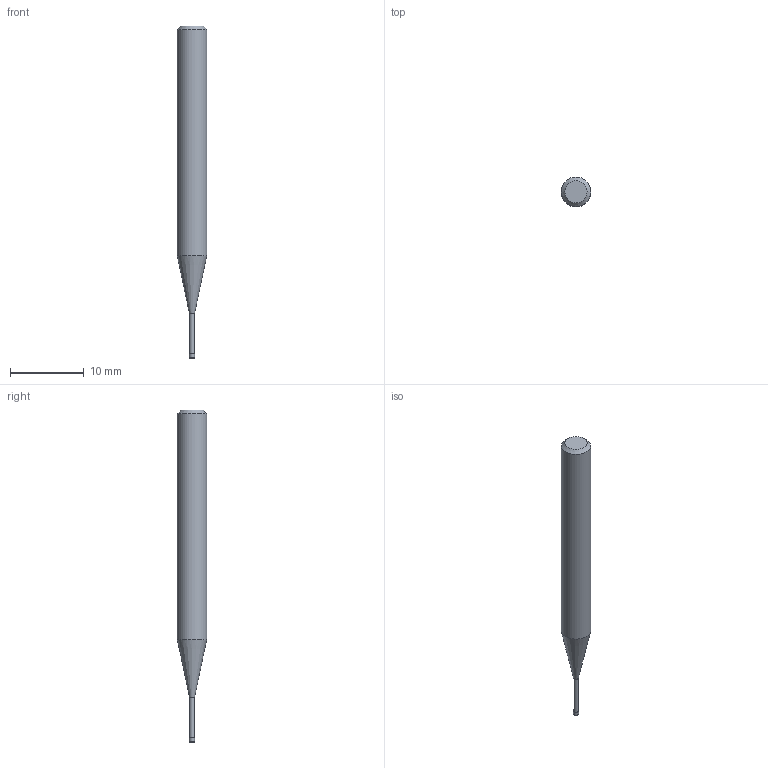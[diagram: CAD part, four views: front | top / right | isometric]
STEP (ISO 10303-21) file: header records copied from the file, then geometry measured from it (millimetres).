
FILE_DESCRIPTION((''),'2;1');
FILE_NAME('C:\Users\nsx150\AppData\Local\Temp\Mastercam 2021\3SYKECWX22\TEMP.step','2021-04-22T09:37:51',(''),(''),'STEP Write','Mastercam 2021 ... CNC Software, Inc.','');
FILE_SCHEMA(('AUTOMOTIVE_DESIGN'));
Length unit declared in the file: millimetre
Products named in the file (1): None
Bounding box: 4 x 4 x 45 mm (x, y, z)
Volume: 431.2 mm3; surface area: 472.3 mm2
Topology: 2 solids, 2 shells, 10 faces, 14 edges, 8 vertices
Faces by surface type: plane 4, cylinder 3, cone 2, torus 1
Full cylindrical faces by diameter (mm): 0.66 x1, 0.7 x1, 4 x1
Entity records: 232 total; most frequent: DIRECTION 40, CARTESIAN_POINT 28, AXIS2_PLACEMENT_3D 20, ORIENTED_EDGE 16, EDGE_LOOP 16, STYLED_ITEM 13, ADVANCED_FACE 10, FACE_BOUND 10
